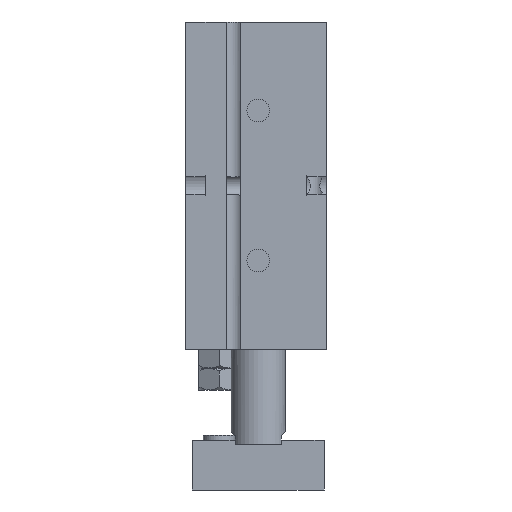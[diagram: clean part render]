
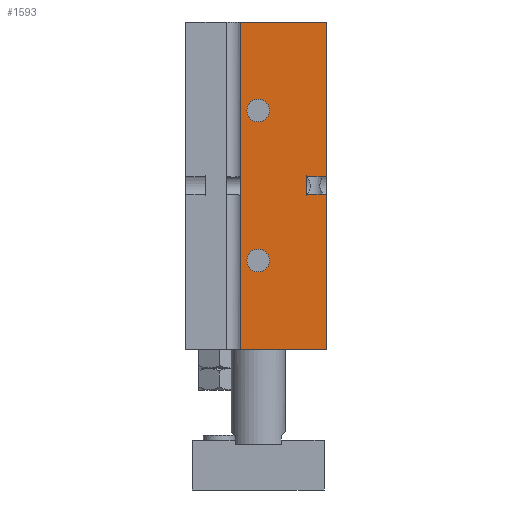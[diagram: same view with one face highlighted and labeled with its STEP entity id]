
A CAD part, front view. The second image highlights one B-rep face of the part: STEP entity #1593.
In plain terms, the highlighted planar face has unit normal (0, -1, 0).
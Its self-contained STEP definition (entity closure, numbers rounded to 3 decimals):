
#1133=CARTESIAN_POINT('',(-4.,-36.5,103.));
#1134=VERTEX_POINT('',#1133);
#1142=CARTESIAN_POINT('',(-4.,-36.5,31.));
#1143=VERTEX_POINT('',#1142);
#1150=CARTESIAN_POINT('',(-4.,-36.5,103.));
#1151=DIRECTION('',(0.0,0.0,-1.0));
#1152=VECTOR('',#1151,72.);
#1153=LINE('',#1150,#1152);
#1154=EDGE_CURVE('',#1134,#1143,#1153,.T.);
#1324=CARTESIAN_POINT('',(15.0,-36.5,103.));
#1325=VERTEX_POINT('',#1324);
#1326=CARTESIAN_POINT('',(15.0,-36.5,103.));
#1327=DIRECTION('',(-1.0,0.0,0.0));
#1328=VECTOR('',#1327,19.);
#1329=LINE('',#1326,#1328);
#1330=EDGE_CURVE('',#1325,#1134,#1329,.T.);
#1516=CARTESIAN_POINT('',(15.0,-36.5,31.0));
#1517=DIRECTION('',(0.0,-1.0,0.0));
#1518=DIRECTION('',(0.0,0.0,-1.0));
#1519=AXIS2_PLACEMENT_3D('',#1516,#1517,#1518);
#1520=PLANE('',#1519);
#1521=ORIENTED_EDGE('',*,*,#1154,.T.);
#1522=CARTESIAN_POINT('',(15.0,-36.5,31.0));
#1523=VERTEX_POINT('',#1522);
#1524=CARTESIAN_POINT('',(15.0,-36.5,31.0));
#1525=DIRECTION('',(-1.0,0.0,0.0));
#1526=VECTOR('',#1525,19.);
#1527=LINE('',#1524,#1526);
#1528=EDGE_CURVE('',#1523,#1143,#1527,.T.);
#1529=ORIENTED_EDGE('',*,*,#1528,.F.);
#1530=CARTESIAN_POINT('',(15.0,-36.5,65.064));
#1531=VERTEX_POINT('',#1530);
#1532=CARTESIAN_POINT('',(15.0,-36.5,31.0));
#1533=DIRECTION('',(0.0,0.0,1.0));
#1534=VECTOR('',#1533,34.064);
#1535=LINE('',#1532,#1534);
#1536=EDGE_CURVE('',#1523,#1531,#1535,.T.);
#1537=ORIENTED_EDGE('',*,*,#1536,.T.);
#1538=CARTESIAN_POINT('',(10.6,-36.5,65.064));
#1539=VERTEX_POINT('',#1538);
#1540=CARTESIAN_POINT('',(15.0,-36.5,65.064));
#1541=DIRECTION('',(-1.0,0.0,0.0));
#1542=VECTOR('',#1541,4.4);
#1543=LINE('',#1540,#1542);
#1544=EDGE_CURVE('',#1531,#1539,#1543,.T.);
#1545=ORIENTED_EDGE('',*,*,#1544,.T.);
#1546=CARTESIAN_POINT('',(10.6,-36.5,68.936));
#1547=VERTEX_POINT('',#1546);
#1548=CARTESIAN_POINT('',(10.6,-36.5,65.064));
#1549=DIRECTION('',(0.0,0.0,1.0));
#1550=VECTOR('',#1549,3.873);
#1551=LINE('',#1548,#1550);
#1552=EDGE_CURVE('',#1539,#1547,#1551,.T.);
#1553=ORIENTED_EDGE('',*,*,#1552,.T.);
#1554=CARTESIAN_POINT('',(15.0,-36.5,68.936));
#1555=VERTEX_POINT('',#1554);
#1556=CARTESIAN_POINT('',(10.6,-36.5,68.936));
#1557=DIRECTION('',(1.0,0.0,0.0));
#1558=VECTOR('',#1557,4.4);
#1559=LINE('',#1556,#1558);
#1560=EDGE_CURVE('',#1547,#1555,#1559,.T.);
#1561=ORIENTED_EDGE('',*,*,#1560,.T.);
#1562=CARTESIAN_POINT('',(15.0,-36.5,68.936));
#1563=DIRECTION('',(0.0,0.0,1.0));
#1564=VECTOR('',#1563,34.064);
#1565=LINE('',#1562,#1564);
#1566=EDGE_CURVE('',#1555,#1325,#1565,.T.);
#1567=ORIENTED_EDGE('',*,*,#1566,.T.);
#1568=ORIENTED_EDGE('',*,*,#1330,.T.);
#1569=EDGE_LOOP('',(#1521,#1529,#1537,#1545,#1553,#1561,#1567,#1568));
#1570=FACE_OUTER_BOUND('',#1569,.T.);
#1571=CARTESIAN_POINT('',(2.5,-36.5,83.5));
#1572=VERTEX_POINT('',#1571);
#1573=CARTESIAN_POINT('',(0.0,-36.5,83.5));
#1574=DIRECTION('',(0.0,1.0,0.0));
#1575=DIRECTION('',(-1.0,0.0,0.0));
#1576=AXIS2_PLACEMENT_3D('',#1573,#1574,#1575);
#1577=CIRCLE('',#1576,2.5);
#1578=EDGE_CURVE('',#1572,#1572,#1577,.T.);
#1579=ORIENTED_EDGE('',*,*,#1578,.T.);
#1580=EDGE_LOOP('',(#1579));
#1581=FACE_BOUND('',#1580,.T.);
#1582=CARTESIAN_POINT('',(2.5,-36.5,50.5));
#1583=VERTEX_POINT('',#1582);
#1584=CARTESIAN_POINT('',(0.0,-36.5,50.5));
#1585=DIRECTION('',(0.0,1.0,0.0));
#1586=DIRECTION('',(-1.0,0.0,0.0));
#1587=AXIS2_PLACEMENT_3D('',#1584,#1585,#1586);
#1588=CIRCLE('',#1587,2.5);
#1589=EDGE_CURVE('',#1583,#1583,#1588,.T.);
#1590=ORIENTED_EDGE('',*,*,#1589,.T.);
#1591=EDGE_LOOP('',(#1590));
#1592=FACE_BOUND('',#1591,.T.);
#1593=ADVANCED_FACE('',(#1570,#1581,#1592),#1520,.T.);
